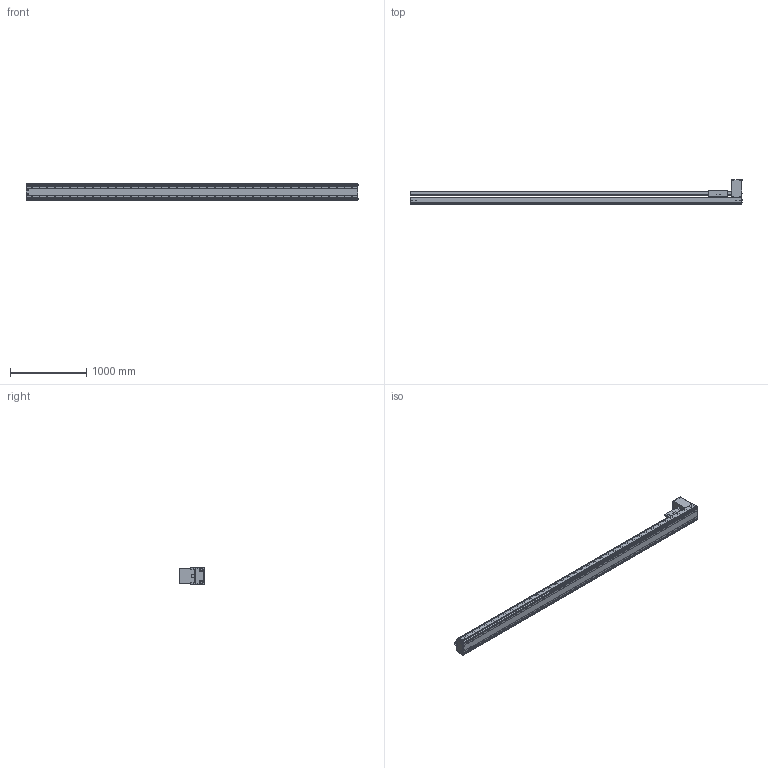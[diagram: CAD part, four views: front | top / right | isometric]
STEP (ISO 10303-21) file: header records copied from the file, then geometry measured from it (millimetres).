
FILE_DESCRIPTION((''),'2;1');
FILE_NAME('BE60J-BT-M19N-W85_IGS_PRT','2017-06-18T',(' '),(''),'PRO/ENGINEER BY PARAMETRIC TECHNOLOGY CORPORATION, 2015030','PRO/ENGINEER BY PARAMETRIC TECHNOLOGY CORPORATION, 2015030','');
FILE_SCHEMA(('CONFIG_CONTROL_DESIGN'));
Products named in the file (1): BE60J-BT-M19N-W85_IGS_PRT
Bounding box: 4354.4 x 327.5 x 214 mm (x, y, z)
Volume: 34129267.2 mm3; surface area: 10014151.3 mm2
Topology: 2 solids, 337 shells, 2968 faces, 8763 edges, 5867 vertices
Faces by surface type: cylinder 1652, plane 984, cone 236, torus 48, sphere 48
Entity records: 103107 total; most frequent: CARTESIAN_POINT 24705, DIRECTION 16059, ORIENTED_EDGE 15724, EDGE_CURVE 8516, AXIS2_PLACEMENT_3D 6166, VERTEX_POINT 5856, EDGE_LOOP 3750, VECTOR 3727
